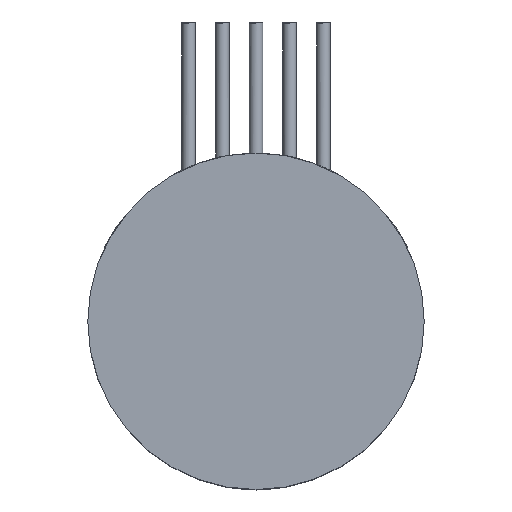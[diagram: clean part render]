
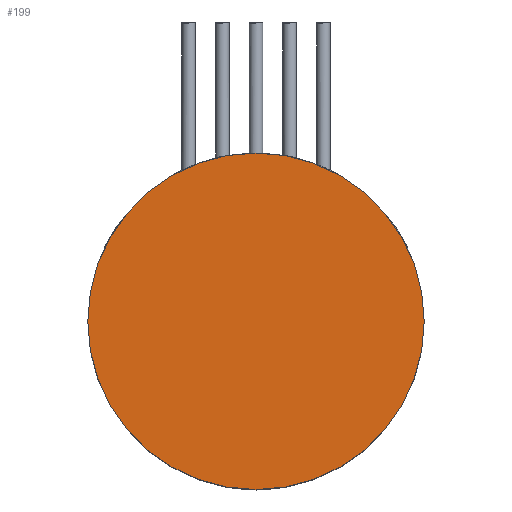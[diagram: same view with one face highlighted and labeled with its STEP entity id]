
A CAD part, top view. The second image highlights one B-rep face of the part: STEP entity #199.
In plain terms, the highlighted planar face has unit normal (0, 0, 1).
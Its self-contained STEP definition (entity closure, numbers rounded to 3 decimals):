
#199=ADVANCED_FACE('',(#408),#409,.F.);
#408=FACE_OUTER_BOUND('',#696,.T.);
#409=PLANE('',#697);
#696=EDGE_LOOP('',(#1044));
#697=AXIS2_PLACEMENT_3D('',#1045,#1046,#1047);
#1044=ORIENTED_EDGE('',*,*,#1558,.F.);
#1045=CARTESIAN_POINT('',(0.0,-4.463,8.25));
#1046=DIRECTION('',(0.0,0.0,-1.0));
#1047=DIRECTION('',(-1.0,0.0,0.0));
#1558=EDGE_CURVE('',#1795,#1795,#1796,.T.);
#1795=VERTEX_POINT('',#2172);
#1796=CIRCLE('',#2173,10.0);
#2172=CARTESIAN_POINT('',(0.,10.0,8.25));
#2173=AXIS2_PLACEMENT_3D('',#2750,#2751,#2752);
#2750=CARTESIAN_POINT('',(0.,0.0,8.25));
#2751=DIRECTION('',(0.,0.,-1.0));
#2752=DIRECTION('',(0.0,1.0,0.));
